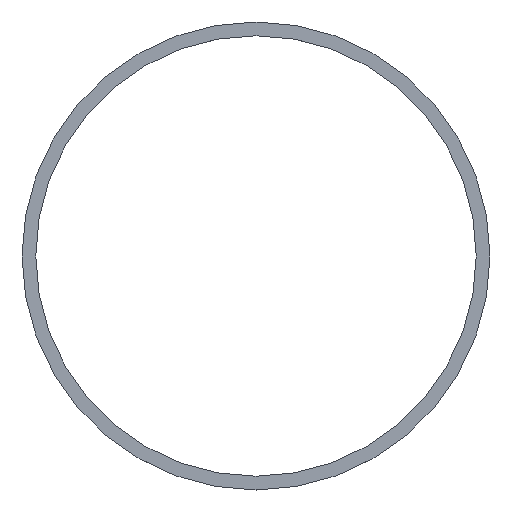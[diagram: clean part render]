
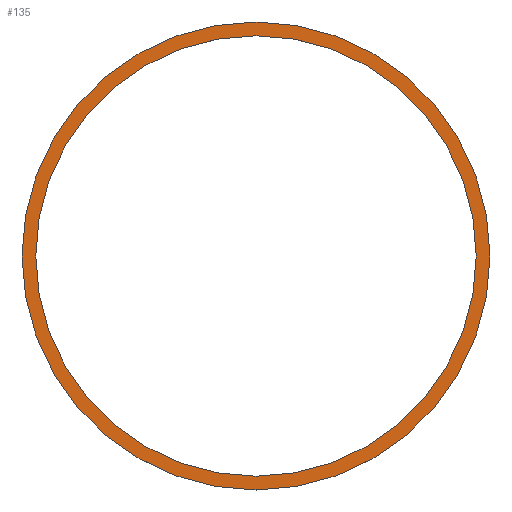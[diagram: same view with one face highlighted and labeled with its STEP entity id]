
A CAD part, top view. The second image highlights one B-rep face of the part: STEP entity #135.
In plain terms, the highlighted planar face has unit normal (0, 0, 1).
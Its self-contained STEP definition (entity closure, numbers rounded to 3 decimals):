
#73=CARTESIAN_POINT('',(153.5,0.,2.0));
#74=VERTEX_POINT('',#73);
#75=CARTESIAN_POINT('',(0.0,0.0,2.0));
#76=DIRECTION('',(0.0,0.0,-1.0));
#77=DIRECTION('',(-1.0,0.0,0.0));
#78=AXIS2_PLACEMENT_3D('',#75,#76,#77);
#79=CIRCLE('',#78,153.5);
#80=EDGE_CURVE('',#74,#74,#79,.T.);
#101=CARTESIAN_POINT('',(163.1,0.,2.0));
#102=VERTEX_POINT('',#101);
#103=CARTESIAN_POINT('',(0.0,0.0,2.0));
#104=DIRECTION('',(0.0,0.0,-1.0));
#105=DIRECTION('',(-1.0,0.0,0.0));
#106=AXIS2_PLACEMENT_3D('',#103,#104,#105);
#107=CIRCLE('',#106,163.1);
#108=EDGE_CURVE('',#102,#102,#107,.T.);
#124=CARTESIAN_POINT('',(0.0,0.0,2.0));
#125=DIRECTION('',(0.0,0.0,-1.0));
#126=DIRECTION('',(-1.0,0.0,0.0));
#127=AXIS2_PLACEMENT_3D('',#124,#125,#126);
#128=PLANE('',#127);
#129=ORIENTED_EDGE('',*,*,#108,.F.);
#130=EDGE_LOOP('',(#129));
#131=FACE_OUTER_BOUND('',#130,.T.);
#132=ORIENTED_EDGE('',*,*,#80,.T.);
#133=EDGE_LOOP('',(#132));
#134=FACE_BOUND('',#133,.T.);
#135=ADVANCED_FACE('',(#131,#134),#128,.F.);
